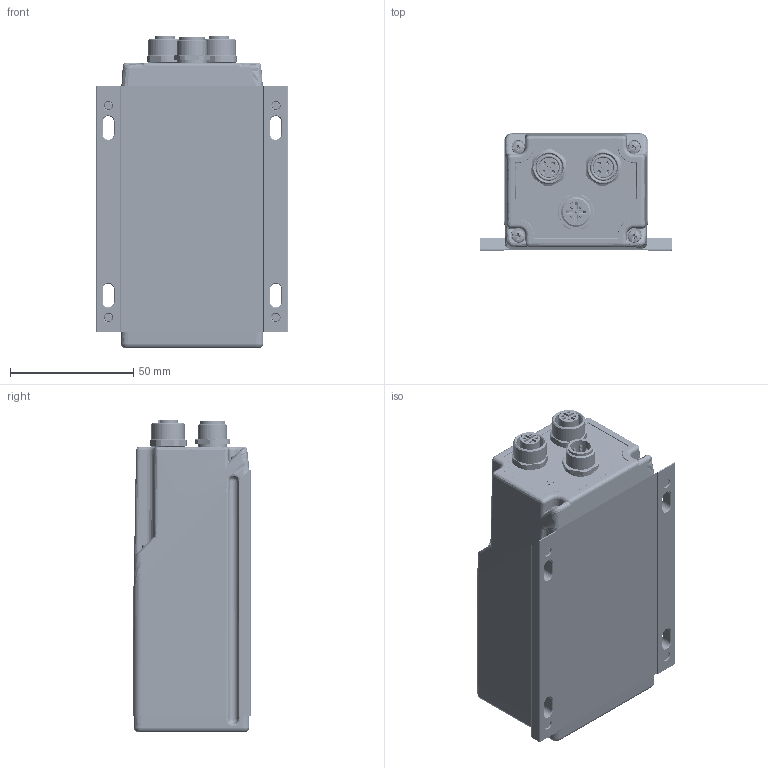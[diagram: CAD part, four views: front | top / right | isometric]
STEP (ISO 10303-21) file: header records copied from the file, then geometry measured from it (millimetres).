
FILE_DESCRIPTION (( 'STEP AP214' ), '1' );
FILE_NAME ('Sensor1_RTE_Simplified.STEP', '2019-10-21T12:28:06', ( '' ), ( '' ), 'SwSTEP 2.0', 'SolidWorks 2014', '' );
FILE_SCHEMA (( 'AUTOMOTIVE_DESIGN' ));
Length unit declared in the file: millimetre
Products named in the file (2): Sensor1_RTE_Simplified
Bounding box: 78 x 47.6 x 127 mm (x, y, z)
Surface area: 131116.6 mm2 (no closed solid volume)
Topology: 0 solids, 141 shells, 5693 faces, 15827 edges, 10340 vertices
Faces by surface type: plane 2355, cylinder 1383, bspline 823, cone 573, torus 425, sphere 134
Entity records: 274996 total; most frequent: CARTESIAN_POINT 74097, ORIENTED_EDGE 29368, DIRECTION 26767, EDGE_CURVE 15723, VERTEX_POINT 10316, AXIS2_PLACEMENT_3D 9322, LINE 8123, VECTOR 8123
